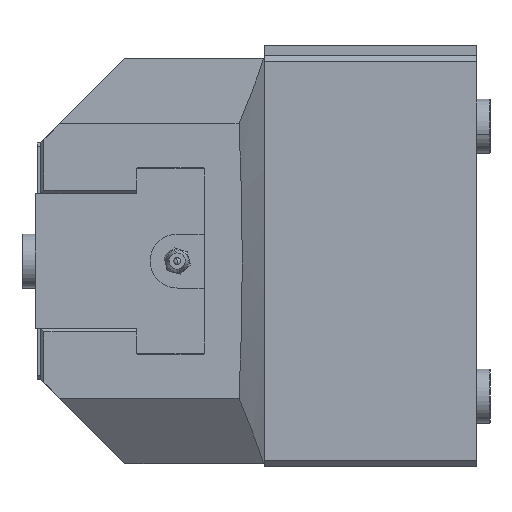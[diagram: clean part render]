
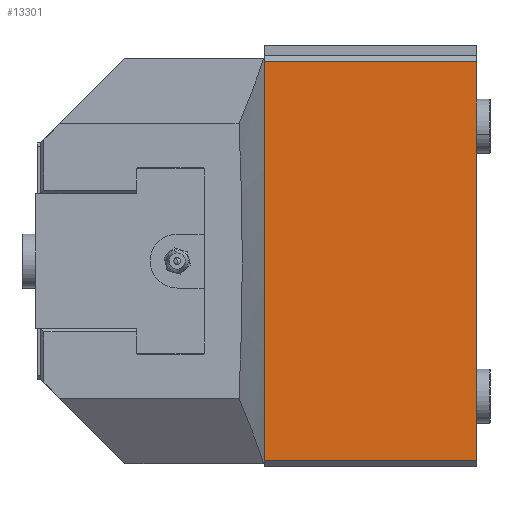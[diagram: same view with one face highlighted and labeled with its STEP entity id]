
A CAD part, left-side view. The second image highlights one B-rep face of the part: STEP entity #13301.
In plain terms, the highlighted planar face has unit normal (-1, 0, 0).
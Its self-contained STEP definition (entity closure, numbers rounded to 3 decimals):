
#2414 = VECTOR ( 'NONE', #15247, 1000. ) ;
#3086 = EDGE_CURVE ( 'NONE', #7810, #4987, #4999, .T. ) ;
#4148 = EDGE_CURVE ( 'NONE', #18061, #4987, #18166, .T. ) ;
#4221 = CARTESIAN_POINT ( 'NONE',  ( -93., 0., 64. ) ) ;
#4801 = CARTESIAN_POINT ( 'NONE',  ( -93., 62.9, -59. ) ) ;
#4948 = VERTEX_POINT ( 'NONE', #5289 ) ;
#4987 = VERTEX_POINT ( 'NONE', #10437 ) ;
#4999 = LINE ( 'NONE', #12208, #13524 ) ;
#5206 = DIRECTION ( 'NONE',  ( 0., 1., 0. ) ) ;
#5289 = CARTESIAN_POINT ( 'NONE',  ( -93., 0., -59. ) ) ;
#5606 = PLANE ( 'NONE',  #6701 ) ;
#5697 = CARTESIAN_POINT ( 'NONE',  ( -93., 62.9, 64. ) ) ;
#5954 = EDGE_CURVE ( 'NONE', #7810, #4948, #8391, .T. ) ;
#6701 = AXIS2_PLACEMENT_3D ( 'NONE', #5697, #6985, #17080 ) ;
#6758 = CARTESIAN_POINT ( 'NONE',  ( -93., 62.9, -59. ) ) ;
#6985 = DIRECTION ( 'NONE',  ( 1., 0., 0. ) ) ;
#7810 = VERTEX_POINT ( 'NONE', #4801 ) ;
#7999 = CARTESIAN_POINT ( 'NONE',  ( -93., 62.9, 59. ) ) ;
#8391 = LINE ( 'NONE', #6758, #13946 ) ;
#8764 = ORIENTED_EDGE ( 'NONE', *, *, #4148, .T. ) ;
#8874 = ORIENTED_EDGE ( 'NONE', *, *, #10480, .T. ) ;
#9251 = EDGE_LOOP ( 'NONE', ( #8874, #8764, #11313, #17420 ) ) ;
#10370 = CARTESIAN_POINT ( 'NONE',  ( -93., 0., 59. ) ) ;
#10437 = CARTESIAN_POINT ( 'NONE',  ( -93., 62.9, 59. ) ) ;
#10480 = EDGE_CURVE ( 'NONE', #4948, #18061, #18131, .T. ) ;
#11313 = ORIENTED_EDGE ( 'NONE', *, *, #3086, .F. ) ;
#11801 = VECTOR ( 'NONE', #5206, 1000. ) ;
#12208 = CARTESIAN_POINT ( 'NONE',  ( -93., 62.9, 64. ) ) ;
#13301 = ADVANCED_FACE ( 'NONE', ( #16453 ), #5606, .F. ) ;
#13524 = VECTOR ( 'NONE', #17865, 1000. ) ;
#13946 = VECTOR ( 'NONE', #15465, 1000. ) ;
#15247 = DIRECTION ( 'NONE',  ( 0., 0., 1. ) ) ;
#15465 = DIRECTION ( 'NONE',  ( 0., -1., 0. ) ) ;
#16453 = FACE_OUTER_BOUND ( 'NONE', #9251, .T. ) ;
#17080 = DIRECTION ( 'NONE',  ( 0., 0., -1. ) ) ;
#17420 = ORIENTED_EDGE ( 'NONE', *, *, #5954, .T. ) ;
#17865 = DIRECTION ( 'NONE',  ( 0., 0., 1. ) ) ;
#18061 = VERTEX_POINT ( 'NONE', #10370 ) ;
#18131 = LINE ( 'NONE', #4221, #2414 ) ;
#18166 = LINE ( 'NONE', #7999, #11801 ) ;
